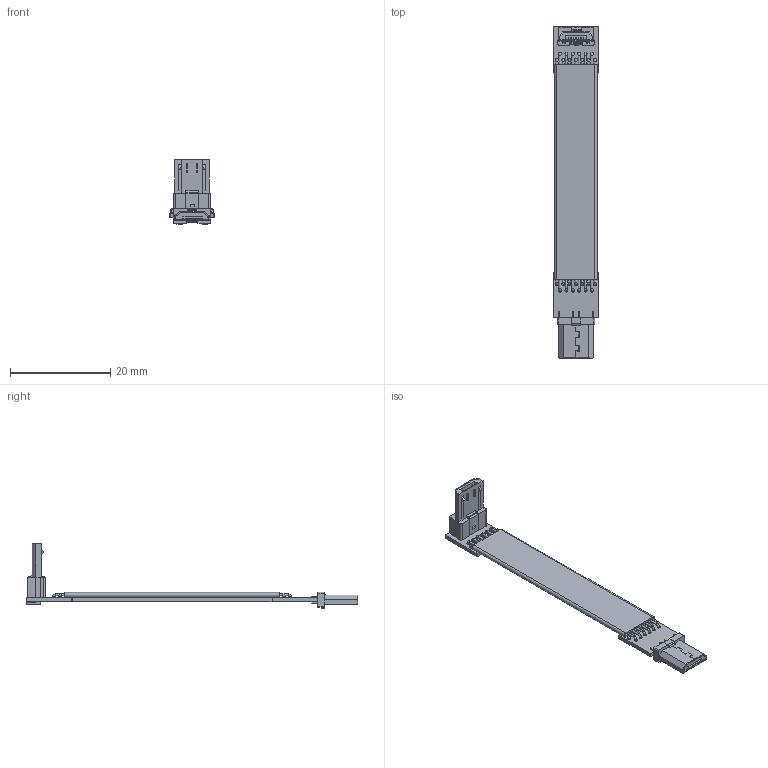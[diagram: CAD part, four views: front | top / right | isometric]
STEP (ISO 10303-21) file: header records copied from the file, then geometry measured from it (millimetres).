
FILE_DESCRIPTION(('Open CASCADE Model'),'2;1');
FILE_NAME('Open CASCADE Shape Model','2020-09-01T10:09:03',('Author'),( 'Open CASCADE'),'Open CASCADE STEP processor 6.8','Open CASCADE 6.8' ,'Unknown');
FILE_SCHEMA(('AUTOMOTIVE_DESIGN { 1 0 10303 214 1 1 1 1 }'));
Length unit declared in the file: millimetre
Products named in the file (35): PCB; Board; Open CASCADE STEP translator 6.8 21.1.1; Designator22; USB_micro; Designator22_1; micro_usb1; Free-Models; cable13-US2A
Assembly tree (34 placements, depth 3):
  PCB
    Board
      Open CASCADE STEP translator 6.8 21.1.1
    Designator22
      USB_micro
    Designator22_1
      micro_usb1
    Free-Models
      cable13-US2A
      cable13-US2A
      cable13-US2A
      cable13-US2A
      cable13-US2A
      cable13-US2A
      cable13-US2A
      cable13-US2A
      cable13-US2A
      cable13-US2A
      cable13-US2A
      cable13-US2A
      cable13-US2A
      cable13-US2A
      cable13-US2A
      cable13-US2A
      cable13-US2A
      cable13-US2A
      cable13-US2A
      cable13-US2A
      cable13-US2A
      cable13-US2A
      cable13-US2A
      cable13-US2A
      cable13-US2A
      cable13-US2A
      cable13-US2A
Bounding box: 8.83 x 66.3 x 12.88 mm (x, y, z)
Volume: 670.5 mm3; surface area: 2873.5 mm2
Topology: 30 solids, 30 shells, 582 faces, 1373 edges, 881 vertices
Faces by surface type: plane 388, cylinder 168, torus 26
Full cylindrical faces by diameter (mm): 0.36 x5, 0.4 x65, 0.6 x26
Entity records: 22060 total; most frequent: CARTESIAN_POINT 3092, DIRECTION 2838, ORIENTED_EDGE 2746, EDGE_CURVE 1373, LINE 960, VECTOR 960, AXIS2_PLACEMENT_3D 939, VERTEX_POINT 881
